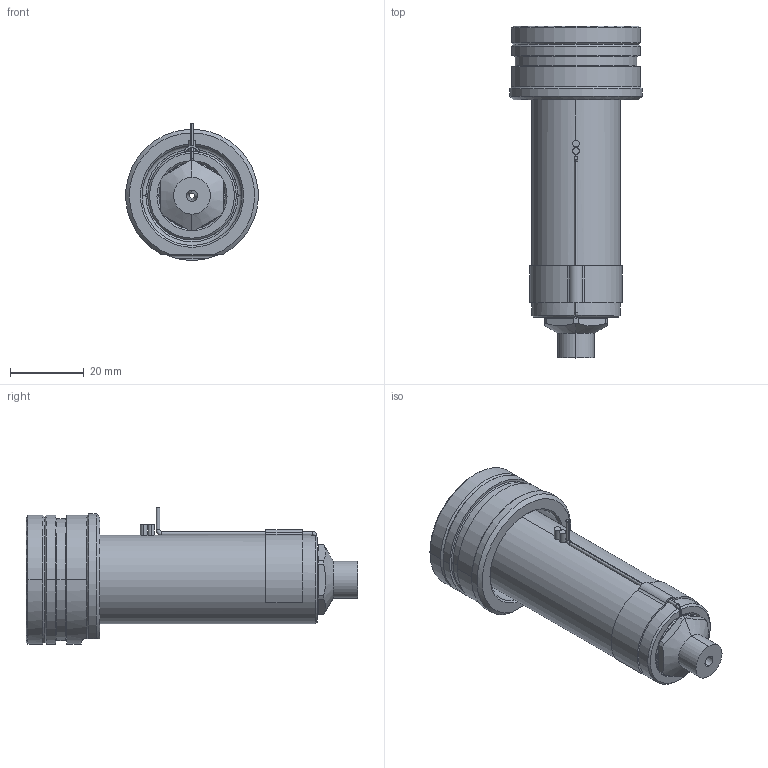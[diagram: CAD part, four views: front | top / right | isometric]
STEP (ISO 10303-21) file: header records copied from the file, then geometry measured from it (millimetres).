
FILE_DESCRIPTION((''),'2;1');
FILE_NAME('EO06_VG-ST_STD_070_SW','2024-02-19T12:37:22',('sundharh'),(''),'CREO PARAMETRIC BY PTC INC, 2023154','CREO PARAMETRIC BY PTC INC, 2023154','');
FILE_SCHEMA(('CONFIG_CONTROL_DESIGN'));
Length unit declared in the file: millimetre
Products named in the file (1): EO06_VG-ST_STD_070_SW
Bounding box: 35.93 x 90 x 37 mm (x, y, z)
Volume: 43281.7 mm3; surface area: 13441.6 mm2
Topology: 2 solids, 2 shells, 176 faces, 448 edges, 273 vertices
Faces by surface type: cylinder 68, plane 41, cone 34, torus 21, bspline 10, sphere 2
Entity records: 6061 total; most frequent: CARTESIAN_POINT 1743, DIRECTION 954, ORIENTED_EDGE 884, EDGE_CURVE 442, AXIS2_PLACEMENT_3D 399, VERTEX_POINT 273, CIRCLE 233, EDGE_LOOP 189
